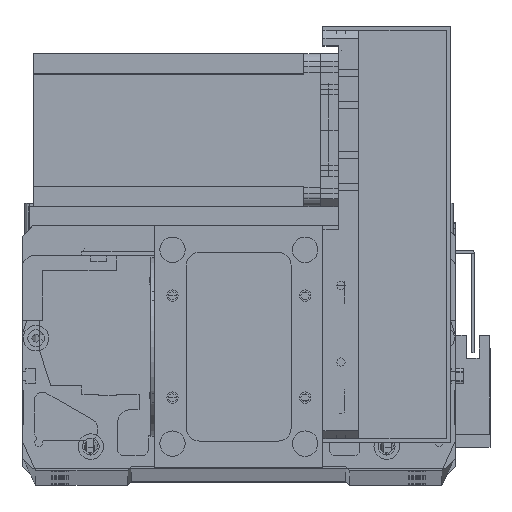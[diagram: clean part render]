
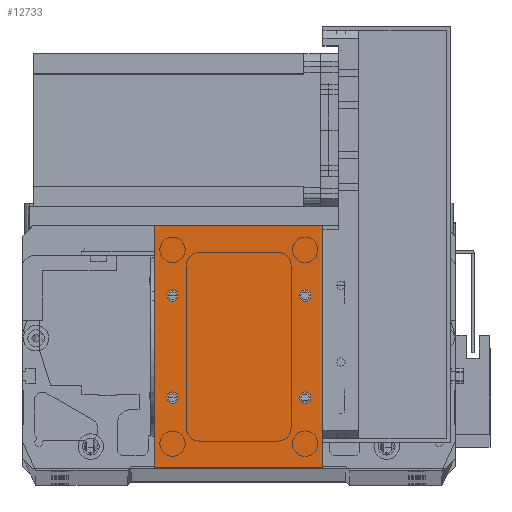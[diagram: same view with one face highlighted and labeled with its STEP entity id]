
A CAD part, top view. The second image highlights one B-rep face of the part: STEP entity #12733.
In plain terms, the highlighted planar face has unit normal (0, 0, 1).
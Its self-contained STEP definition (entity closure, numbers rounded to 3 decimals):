
#48 = CARTESIAN_POINT ( 'NONE',  ( 7., 67.5, 2. ) ) ;
#888 = AXIS2_PLACEMENT_3D ( 'NONE', #34491, #18361, #2143 ) ;
#1220 = EDGE_CURVE ( 'NONE', #13161, #14557, #22067, .T. ) ;
#1644 = CIRCLE ( 'NONE', #888, 2.25 ) ;
#1654 = LINE ( 'NONE', #14148, #7987 ) ;
#1776 = PLANE ( 'NONE',  #12099 ) ;
#1999 = DIRECTION ( 'NONE',  ( 1., 0., 0. ) ) ;
#2143 = DIRECTION ( 'NONE',  ( 1., 0., 0. ) ) ;
#2240 = VERTEX_POINT ( 'NONE', #19593 ) ;
#2401 = FACE_OUTER_BOUND ( 'NONE', #4431, .T. ) ;
#2551 = EDGE_LOOP ( 'NONE', ( #8128, #10484 ) ) ;
#2630 = AXIS2_PLACEMENT_3D ( 'NONE', #11349, #30266, #14076 ) ;
#2800 = EDGE_CURVE ( 'NONE', #12782, #20491, #5450, .T. ) ;
#2813 = DIRECTION ( 'NONE',  ( 1., 0., 0. ) ) ;
#3136 = CARTESIAN_POINT ( 'NONE',  ( 0., 0., 2. ) ) ;
#4094 = AXIS2_PLACEMENT_3D ( 'NONE', #48, #19041, #2813 ) ;
#4431 = EDGE_LOOP ( 'NONE', ( #8391, #6059, #15265, #28820 ) ) ;
#4438 = CARTESIAN_POINT ( 'NONE',  ( 7., 27.5, 2. ) ) ;
#4997 = AXIS2_PLACEMENT_3D ( 'NONE', #4438, #23413, #7169 ) ;
#5450 = CIRCLE ( 'NONE', #29880, 2.25 ) ;
#6059 = ORIENTED_EDGE ( 'NONE', *, *, #25516, .T. ) ;
#6391 = ORIENTED_EDGE ( 'NONE', *, *, #14506, .F. ) ;
#6741 = CARTESIAN_POINT ( 'NONE',  ( 59., 27.5, 2. ) ) ;
#7169 = DIRECTION ( 'NONE',  ( 1., 0., 0. ) ) ;
#7182 = VERTEX_POINT ( 'NONE', #26609 ) ;
#7987 = VECTOR ( 'NONE', #11411, 1000. ) ;
#8128 = ORIENTED_EDGE ( 'NONE', *, *, #1220, .F. ) ;
#8213 = EDGE_CURVE ( 'NONE', #14557, #13161, #18480, .T. ) ;
#8391 = ORIENTED_EDGE ( 'NONE', *, *, #34548, .T. ) ;
#8478 = ORIENTED_EDGE ( 'NONE', *, *, #23839, .F. ) ;
#8535 = CARTESIAN_POINT ( 'NONE',  ( 61.25, 67.5, 2. ) ) ;
#8855 = CARTESIAN_POINT ( 'NONE',  ( 4.75, 67.5, 2. ) ) ;
#9423 = ORIENTED_EDGE ( 'NONE', *, *, #29944, .F. ) ;
#9459 = DIRECTION ( 'NONE',  ( 1., 0., 0. ) ) ;
#9562 = FACE_BOUND ( 'NONE', #17901, .T. ) ;
#9901 = EDGE_CURVE ( 'NONE', #20491, #12782, #11546, .T. ) ;
#9953 = CARTESIAN_POINT ( 'NONE',  ( 61.25, 27.5, 2. ) ) ;
#10426 = FACE_BOUND ( 'NONE', #29297, .T. ) ;
#10484 = ORIENTED_EDGE ( 'NONE', *, *, #8213, .F. ) ;
#10498 = CARTESIAN_POINT ( 'NONE',  ( 0., 95., 2. ) ) ;
#10795 = LINE ( 'NONE', #21366, #24385 ) ;
#11308 = DIRECTION ( 'NONE',  ( 0., -1., 0. ) ) ;
#11349 = CARTESIAN_POINT ( 'NONE',  ( 59., 27.5, 2. ) ) ;
#11411 = DIRECTION ( 'NONE',  ( -1., 0., 0. ) ) ;
#11546 = CIRCLE ( 'NONE', #4997, 2.25 ) ;
#12099 = AXIS2_PLACEMENT_3D ( 'NONE', #31706, #15512, #34367 ) ;
#12244 = CARTESIAN_POINT ( 'NONE',  ( 59., 67.5, 2. ) ) ;
#12554 = EDGE_LOOP ( 'NONE', ( #9423, #6391 ) ) ;
#12733 = ADVANCED_FACE ( 'NONE', ( #31165, #10426, #16793, #9562, #2401 ), #1776, .F. ) ;
#12782 = VERTEX_POINT ( 'NONE', #12905 ) ;
#12905 = CARTESIAN_POINT ( 'NONE',  ( 9.25, 27.5, 2. ) ) ;
#13118 = AXIS2_PLACEMENT_3D ( 'NONE', #12244, #31166, #14960 ) ;
#13161 = VERTEX_POINT ( 'NONE', #31081 ) ;
#13350 = VERTEX_POINT ( 'NONE', #21284 ) ;
#14076 = DIRECTION ( 'NONE',  ( 1., 0., 0. ) ) ;
#14148 = CARTESIAN_POINT ( 'NONE',  ( 0., 95., 2. ) ) ;
#14506 = EDGE_CURVE ( 'NONE', #33140, #20893, #16664, .T. ) ;
#14557 = VERTEX_POINT ( 'NONE', #8855 ) ;
#14960 = DIRECTION ( 'NONE',  ( 1., 0., 0. ) ) ;
#15265 = ORIENTED_EDGE ( 'NONE', *, *, #33513, .T. ) ;
#15429 = CARTESIAN_POINT ( 'NONE',  ( 7., 67.5, 2. ) ) ;
#15512 = DIRECTION ( 'NONE',  ( 0., 0., -1. ) ) ;
#16664 = CIRCLE ( 'NONE', #2630, 2.25 ) ;
#16793 = FACE_BOUND ( 'NONE', #12554, .T. ) ;
#17197 = EDGE_CURVE ( 'NONE', #7182, #28012, #1644, .T. ) ;
#17349 = CIRCLE ( 'NONE', #29784, 2.25 ) ;
#17901 = EDGE_LOOP ( 'NONE', ( #29916, #28204 ) ) ;
#17931 = CARTESIAN_POINT ( 'NONE',  ( 56.75, 27.5, 2. ) ) ;
#18020 = VERTEX_POINT ( 'NONE', #19581 ) ;
#18180 = DIRECTION ( 'NONE',  ( 1., 0., 0. ) ) ;
#18235 = DIRECTION ( 'NONE',  ( 0., 0., 1. ) ) ;
#18361 = DIRECTION ( 'NONE',  ( 0., 0., 1. ) ) ;
#18480 = CIRCLE ( 'NONE', #4094, 2.25 ) ;
#18581 = CIRCLE ( 'NONE', #13118, 2.25 ) ;
#19041 = DIRECTION ( 'NONE',  ( 0., 0., 1. ) ) ;
#19127 = CARTESIAN_POINT ( 'NONE',  ( 4.75, 27.5, 2. ) ) ;
#19581 = CARTESIAN_POINT ( 'NONE',  ( 66., 95., 2. ) ) ;
#19593 = CARTESIAN_POINT ( 'NONE',  ( 0., 0., 2. ) ) ;
#20052 = VECTOR ( 'NONE', #11308, 1000. ) ;
#20491 = VERTEX_POINT ( 'NONE', #19127 ) ;
#20893 = VERTEX_POINT ( 'NONE', #9953 ) ;
#21262 = AXIS2_PLACEMENT_3D ( 'NONE', #15429, #34299, #18180 ) ;
#21284 = CARTESIAN_POINT ( 'NONE',  ( 66., 0., 2. ) ) ;
#21366 = CARTESIAN_POINT ( 'NONE',  ( 0., 0., 2. ) ) ;
#22067 = CIRCLE ( 'NONE', #21262, 2.25 ) ;
#22164 = CARTESIAN_POINT ( 'NONE',  ( 66., 0., 2. ) ) ;
#23413 = DIRECTION ( 'NONE',  ( 0., 0., 1. ) ) ;
#23839 = EDGE_CURVE ( 'NONE', #28012, #7182, #18581, .T. ) ;
#24121 = DIRECTION ( 'NONE',  ( 1., 0., 0. ) ) ;
#24385 = VECTOR ( 'NONE', #24121, 1000. ) ;
#24906 = DIRECTION ( 'NONE',  ( 0., 1., 0. ) ) ;
#25516 = EDGE_CURVE ( 'NONE', #2240, #13350, #10795, .T. ) ;
#25709 = DIRECTION ( 'NONE',  ( 0., 0., 1. ) ) ;
#26609 = CARTESIAN_POINT ( 'NONE',  ( 56.75, 67.5, 2. ) ) ;
#26748 = VERTEX_POINT ( 'NONE', #10498 ) ;
#27266 = LINE ( 'NONE', #3136, #20052 ) ;
#28012 = VERTEX_POINT ( 'NONE', #8535 ) ;
#28204 = ORIENTED_EDGE ( 'NONE', *, *, #9901, .F. ) ;
#28820 = ORIENTED_EDGE ( 'NONE', *, *, #31520, .T. ) ;
#29297 = EDGE_LOOP ( 'NONE', ( #8478, #30195 ) ) ;
#29784 = AXIS2_PLACEMENT_3D ( 'NONE', #6741, #25709, #9459 ) ;
#29880 = AXIS2_PLACEMENT_3D ( 'NONE', #34355, #18235, #1999 ) ;
#29916 = ORIENTED_EDGE ( 'NONE', *, *, #2800, .F. ) ;
#29944 = EDGE_CURVE ( 'NONE', #20893, #33140, #17349, .T. ) ;
#30195 = ORIENTED_EDGE ( 'NONE', *, *, #17197, .F. ) ;
#30266 = DIRECTION ( 'NONE',  ( 0., 0., 1. ) ) ;
#31081 = CARTESIAN_POINT ( 'NONE',  ( 9.25, 67.5, 2. ) ) ;
#31165 = FACE_BOUND ( 'NONE', #2551, .T. ) ;
#31166 = DIRECTION ( 'NONE',  ( 0., 0., 1. ) ) ;
#31520 = EDGE_CURVE ( 'NONE', #18020, #26748, #1654, .T. ) ;
#31706 = CARTESIAN_POINT ( 'NONE',  ( 0., 0., 2. ) ) ;
#32388 = VECTOR ( 'NONE', #24906, 1000. ) ;
#33140 = VERTEX_POINT ( 'NONE', #17931 ) ;
#33207 = LINE ( 'NONE', #22164, #32388 ) ;
#33513 = EDGE_CURVE ( 'NONE', #13350, #18020, #33207, .T. ) ;
#34299 = DIRECTION ( 'NONE',  ( 0., 0., 1. ) ) ;
#34355 = CARTESIAN_POINT ( 'NONE',  ( 7., 27.5, 2. ) ) ;
#34367 = DIRECTION ( 'NONE',  ( -1., 0., 0. ) ) ;
#34491 = CARTESIAN_POINT ( 'NONE',  ( 59., 67.5, 2. ) ) ;
#34548 = EDGE_CURVE ( 'NONE', #26748, #2240, #27266, .T. ) ;
